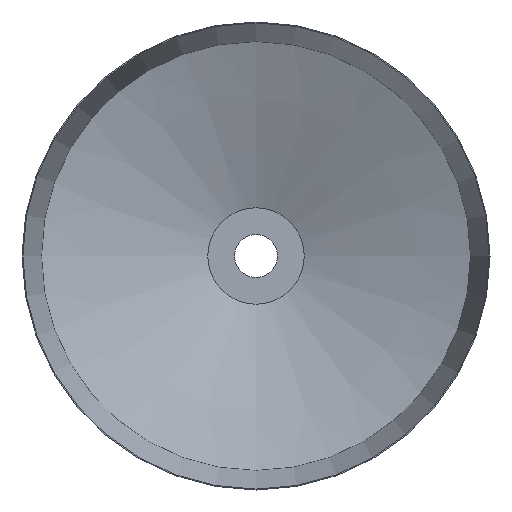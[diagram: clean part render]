
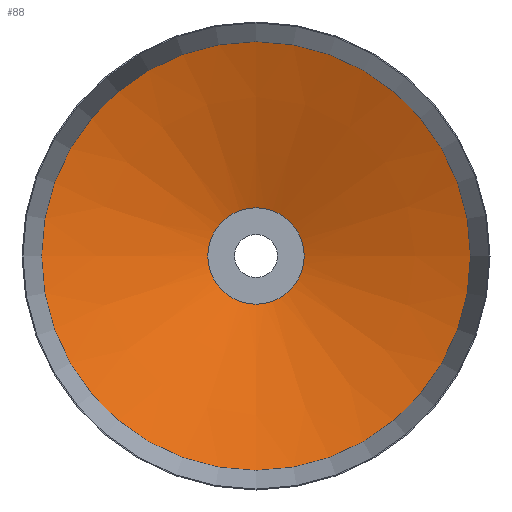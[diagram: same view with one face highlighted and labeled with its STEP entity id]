
A CAD part, front view. The second image highlights one B-rep face of the part: STEP entity #88.
In plain terms, the highlighted conical face has half-angle 70.463 degrees and reference radius 44.862 mm.
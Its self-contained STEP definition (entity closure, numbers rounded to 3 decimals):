
#2 = AXIS2_PLACEMENT_3D ( 'NONE', #70, #109, #81 ) ;
#4 = DIRECTION ( 'NONE',  ( 0., -1., 0. ) ) ;
#11 = EDGE_CURVE ( 'NONE', #159, #159, #35, .T. ) ;
#26 = CIRCLE ( 'NONE', #150, 199.371 ) ;
#35 = CIRCLE ( 'NONE', #147, 44.862 ) ;
#37 = CARTESIAN_POINT ( 'NONE',  ( 0., -3.126, 0. ) ) ;
#48 = CARTESIAN_POINT ( 'NONE',  ( 0., 51.7, 0. ) ) ;
#64 = CONICAL_SURFACE ( 'NONE', #2, 44.862, 1.23 ) ;
#70 = CARTESIAN_POINT ( 'NONE',  ( 0., 51.7, 0. ) ) ;
#77 = ORIENTED_EDGE ( 'NONE', *, *, #11, .F. ) ;
#81 = DIRECTION ( 'NONE',  ( 0., 0., -1. ) ) ;
#88 = ADVANCED_FACE ( 'NONE', ( #129, #124 ), #64, .F. ) ;
#105 = ORIENTED_EDGE ( 'NONE', *, *, #195, .T. ) ;
#109 = DIRECTION ( 'NONE',  ( 0., -1., 0. ) ) ;
#116 = DIRECTION ( 'NONE',  ( 0., -1., 0. ) ) ;
#124 = FACE_BOUND ( 'NONE', #166, .T. ) ;
#129 = FACE_OUTER_BOUND ( 'NONE', #148, .T. ) ;
#130 = DIRECTION ( 'NONE',  ( 0., 0., -1. ) ) ;
#131 = CARTESIAN_POINT ( 'NONE',  ( 0., -3.126, -199.371 ) ) ;
#132 = VERTEX_POINT ( 'NONE', #131 ) ;
#147 = AXIS2_PLACEMENT_3D ( 'NONE', #48, #4, #130 ) ;
#148 = EDGE_LOOP ( 'NONE', ( #105 ) ) ;
#150 = AXIS2_PLACEMENT_3D ( 'NONE', #37, #116, #156 ) ;
#156 = DIRECTION ( 'NONE',  ( 0., 0., -1. ) ) ;
#159 = VERTEX_POINT ( 'NONE', #178 ) ;
#166 = EDGE_LOOP ( 'NONE', ( #77 ) ) ;
#178 = CARTESIAN_POINT ( 'NONE',  ( 0., 51.7, -44.862 ) ) ;
#195 = EDGE_CURVE ( 'NONE', #132, #132, #26, .T. ) ;
